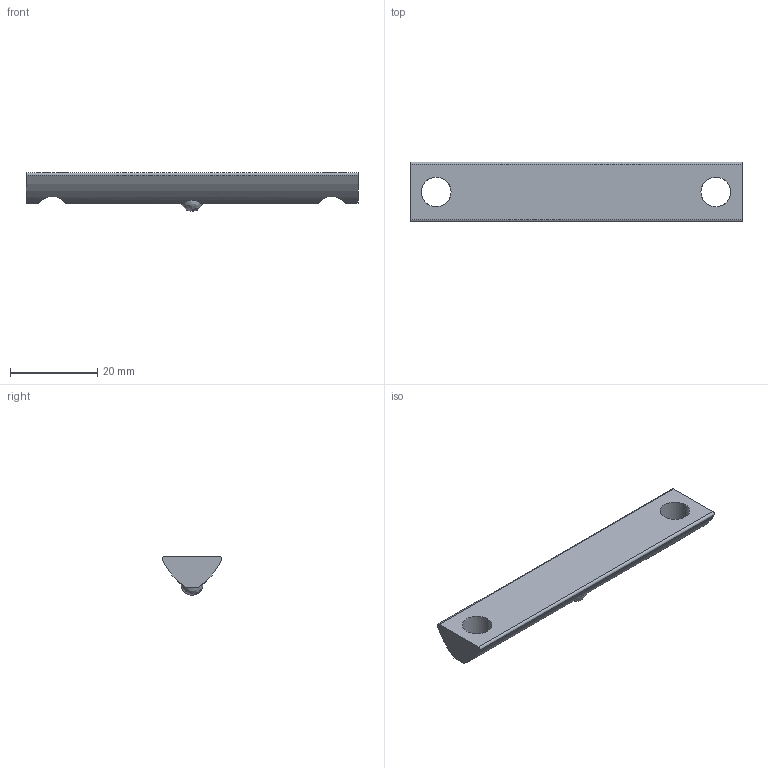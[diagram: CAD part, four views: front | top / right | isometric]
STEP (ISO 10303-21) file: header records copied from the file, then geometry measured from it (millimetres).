
FILE_DESCRIPTION (( 'STEP AP203' ), '1' );
FILE_NAME ('0108NSM8-76ST.STEP', '2024-03-05T13:26:09', ( 'Windows-Benutzer' ), ( '' ), 'SwSTEP 2.0', 'SolidWorks 2023', '' );
FILE_SCHEMA (( 'CONFIG_CONTROL_DESIGN' ));
Length unit declared in the file: millimetre
Products named in the file (1): 0108NSM8-76ST
Bounding box: 76 x 13.7 x 8.9 mm (x, y, z)
Volume: 4714.8 mm3; surface area: 2878.6 mm2
Topology: 1 solids, 1 shells, 18 faces, 60 edges, 38 vertices
Faces by surface type: cylinder 8, plane 7, bspline 3
Entity records: 918 total; most frequent: CARTESIAN_POINT 342, ORIENTED_EDGE 112, DIRECTION 100, EDGE_CURVE 56, AXIS2_PLACEMENT_3D 40, VERTEX_POINT 38, CIRCLE 24, EDGE_LOOP 20
